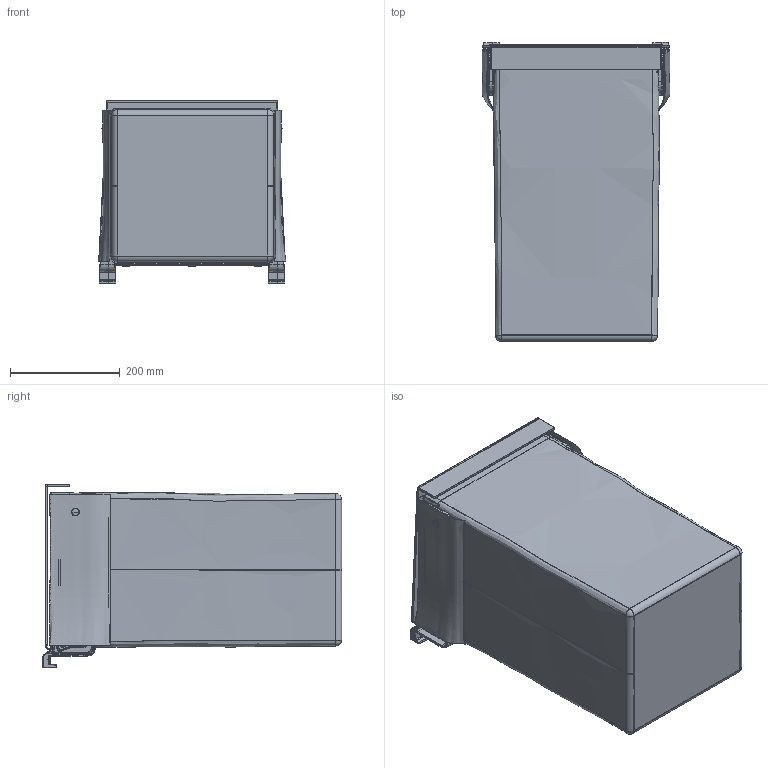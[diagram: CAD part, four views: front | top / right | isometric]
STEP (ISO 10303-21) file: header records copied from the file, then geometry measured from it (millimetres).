
FILE_DESCRIPTION((''),'2;1');
FILE_NAME('238738_SW0001','2024-06-24T10:55:28',('1za37'),('Kesseboehmer'),'CREO PARAMETRIC BY PTC INC, 2020414','CREO PARAMETRIC BY PTC INC, 2020414','');
FILE_SCHEMA(('AUTOMOTIVE_DESIGN { 1 0 10303 214 1 1 1 1 }'));
Products named in the file (1): 238738_SW0001
Bounding box: 341.74 x 545.25 x 334.78 mm (x, y, z)
Volume: 1179405.6 mm3; surface area: 2066708 mm2
Topology: 2 solids, 4 shells, 3005 faces, 7619 edges, 4755 vertices
Faces by surface type: plane 1084, extrusion 703, cylinder 554, torus 262, bspline 250, sphere 82, cone 70
Entity records: 134374 total; most frequent: CARTESIAN_POINT 66177, ORIENTED_EDGE 15198, DIRECTION 11699, EDGE_CURVE 7599, VERTEX_POINT 4755, VECTOR 4675, LINE 3972, AXIS2_PLACEMENT_3D 3512
